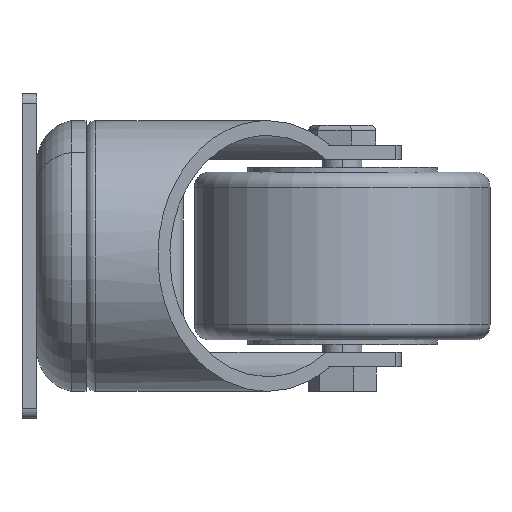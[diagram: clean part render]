
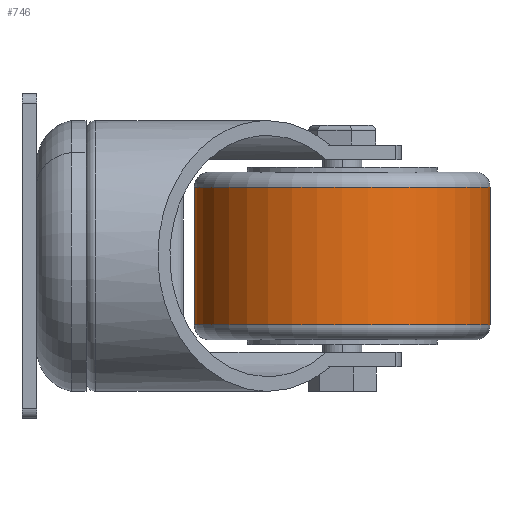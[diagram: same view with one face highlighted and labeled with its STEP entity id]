
A CAD part, left-side view. The second image highlights one B-rep face of the part: STEP entity #746.
In plain terms, the highlighted cylindrical face has radius 30 mm (diameter 60 mm), a partial arc.
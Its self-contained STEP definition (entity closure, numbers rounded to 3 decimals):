
#137 = CARTESIAN_POINT ( 'NONE',  ( 2.251, -22.164, 117.038 ) ) ;
#157 = CARTESIAN_POINT ( 'NONE',  ( 2.251, -22.164, 145.038 ) ) ;
#244 = AXIS2_PLACEMENT_3D ( 'NONE', #4845, #4328, #3789 ) ;
#381 = ORIENTED_EDGE ( 'NONE', *, *, #3796, .T. ) ;
#386 = CARTESIAN_POINT ( 'NONE',  ( 2.251, 7.836, 117.038 ) ) ;
#497 = ORIENTED_EDGE ( 'NONE', *, *, #1163, .T. ) ;
#612 = VERTEX_POINT ( 'NONE', #1670 ) ;
#746 = ADVANCED_FACE ( 'NONE', ( #3784 ), #2617, .T. ) ;
#827 = CIRCLE ( 'NONE', #2717, 30. ) ;
#1013 = VERTEX_POINT ( 'NONE', #1685 ) ;
#1124 = VERTEX_POINT ( 'NONE', #386 ) ;
#1163 = EDGE_CURVE ( 'NONE', #612, #2823, #2657, .T. ) ;
#1222 = EDGE_CURVE ( 'NONE', #2823, #1013, #827, .T. ) ;
#1502 = ORIENTED_EDGE ( 'NONE', *, *, #1850, .F. ) ;
#1628 = DIRECTION ( 'NONE',  ( 0., 0., 1. ) ) ;
#1670 = CARTESIAN_POINT ( 'NONE',  ( 2.251, -52.164, 117.038 ) ) ;
#1685 = CARTESIAN_POINT ( 'NONE',  ( 2.251, 7.836, 145.038 ) ) ;
#1797 = VECTOR ( 'NONE', #1628, 1000. ) ;
#1850 = EDGE_CURVE ( 'NONE', #1124, #1013, #3648, .T. ) ;
#2097 = DIRECTION ( 'NONE',  ( 0., 0., 1. ) ) ;
#2136 = CARTESIAN_POINT ( 'NONE',  ( 2.251, -52.164, 148.038 ) ) ;
#2604 = CARTESIAN_POINT ( 'NONE',  ( 2.251, 7.836, 148.038 ) ) ;
#2617 = CYLINDRICAL_SURFACE ( 'NONE', #244, 30. ) ;
#2626 = CIRCLE ( 'NONE', #3971, 30. ) ;
#2657 = LINE ( 'NONE', #2136, #1797 ) ;
#2663 = DIRECTION ( 'NONE',  ( 0., -1., 0. ) ) ;
#2717 = AXIS2_PLACEMENT_3D ( 'NONE', #157, #4769, #4234 ) ;
#2823 = VERTEX_POINT ( 'NONE', #3886 ) ;
#3186 = DIRECTION ( 'NONE',  ( 0., 0., 1. ) ) ;
#3581 = ORIENTED_EDGE ( 'NONE', *, *, #1222, .T. ) ;
#3648 = LINE ( 'NONE', #2604, #3853 ) ;
#3784 = FACE_OUTER_BOUND ( 'NONE', #4183, .T. ) ;
#3789 = DIRECTION ( 'NONE',  ( 0., -1., 0. ) ) ;
#3796 = EDGE_CURVE ( 'NONE', #1124, #612, #2626, .T. ) ;
#3853 = VECTOR ( 'NONE', #2097, 1000. ) ;
#3886 = CARTESIAN_POINT ( 'NONE',  ( 2.251, -52.164, 145.038 ) ) ;
#3971 = AXIS2_PLACEMENT_3D ( 'NONE', #137, #3186, #2663 ) ;
#4183 = EDGE_LOOP ( 'NONE', ( #1502, #381, #497, #3581 ) ) ;
#4234 = DIRECTION ( 'NONE',  ( 0., 1., 0. ) ) ;
#4328 = DIRECTION ( 'NONE',  ( 0., 0., 1. ) ) ;
#4769 = DIRECTION ( 'NONE',  ( 0., 0., -1. ) ) ;
#4845 = CARTESIAN_POINT ( 'NONE',  ( 2.251, -22.164, 148.038 ) ) ;
